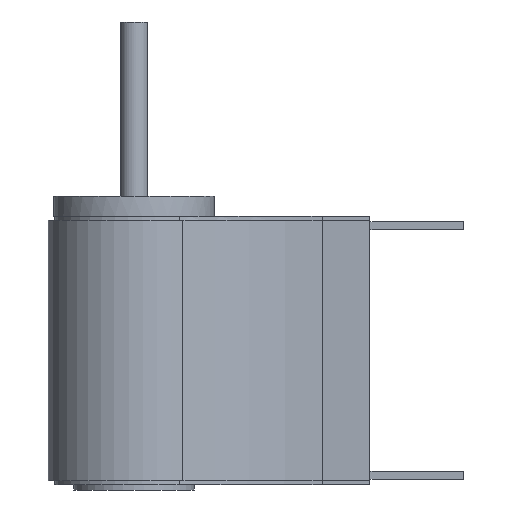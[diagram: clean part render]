
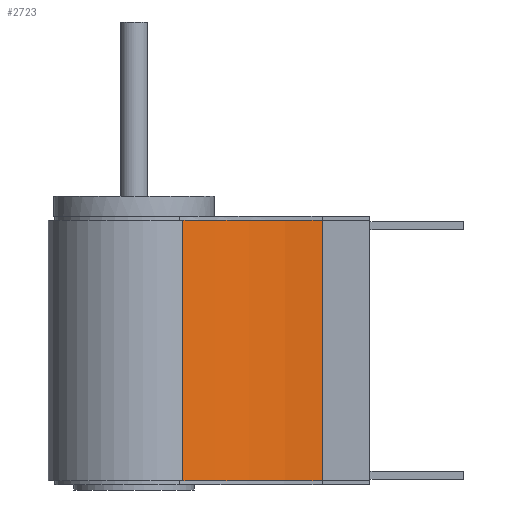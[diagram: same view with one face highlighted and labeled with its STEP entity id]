
A CAD part, front view. The second image highlights one B-rep face of the part: STEP entity #2723.
In plain terms, the highlighted cylindrical face has radius 182 mm (diameter 364 mm), a partial arc.
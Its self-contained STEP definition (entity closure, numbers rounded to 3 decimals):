
#96 = VERTEX_POINT ( 'NONE', #1039 ) ;
#117 = DIRECTION ( 'NONE',  ( -1., 0., 0. ) ) ;
#258 = VECTOR ( 'NONE', #889, 1000. ) ;
#304 = CYLINDRICAL_SURFACE ( 'NONE', #1901, 182. ) ;
#434 = DIRECTION ( 'NONE',  ( -1., 0., 0. ) ) ;
#757 = LINE ( 'NONE', #1429, #258 ) ;
#878 = CIRCLE ( 'NONE', #3517, 182. ) ;
#889 = DIRECTION ( 'NONE',  ( 0., 0., -1. ) ) ;
#917 = FACE_OUTER_BOUND ( 'NONE', #2429, .T. ) ;
#958 = VERTEX_POINT ( 'NONE', #2653 ) ;
#1013 = EDGE_CURVE ( 'NONE', #958, #2554, #2715, .T. ) ;
#1039 = CARTESIAN_POINT ( 'NONE',  ( 204.399, -42., 97. ) ) ;
#1166 = AXIS2_PLACEMENT_3D ( 'NONE', #2125, #3514, #434 ) ;
#1217 = DIRECTION ( 'NONE',  ( 0., 0., -1. ) ) ;
#1286 = ORIENTED_EDGE ( 'NONE', *, *, #2387, .F. ) ;
#1429 = CARTESIAN_POINT ( 'NONE',  ( 204.399, -42., 100. ) ) ;
#1656 = CARTESIAN_POINT ( 'NONE',  ( 204.399, -42., -97. ) ) ;
#1764 = VECTOR ( 'NONE', #1217, 1000. ) ;
#1827 = CARTESIAN_POINT ( 'NONE',  ( 204.399, -224., -97. ) ) ;
#1901 = AXIS2_PLACEMENT_3D ( 'NONE', #2900, #3142, #2586 ) ;
#2125 = CARTESIAN_POINT ( 'NONE',  ( 204.399, -224., 97. ) ) ;
#2204 = CIRCLE ( 'NONE', #1166, 182. ) ;
#2246 = VERTEX_POINT ( 'NONE', #1656 ) ;
#2290 = CARTESIAN_POINT ( 'NONE',  ( 100.527, -74.553, -97. ) ) ;
#2379 = CARTESIAN_POINT ( 'NONE',  ( 100.527, -74.553, 100. ) ) ;
#2387 = EDGE_CURVE ( 'NONE', #96, #2246, #757, .T. ) ;
#2429 = EDGE_LOOP ( 'NONE', ( #3229, #2851, #1286, #3545 ) ) ;
#2554 = VERTEX_POINT ( 'NONE', #2290 ) ;
#2586 = DIRECTION ( 'NONE',  ( -1., 0., 0. ) ) ;
#2653 = CARTESIAN_POINT ( 'NONE',  ( 100.527, -74.553, 97. ) ) ;
#2715 = LINE ( 'NONE', #2379, #1764 ) ;
#2723 = ADVANCED_FACE ( 'NONE', ( #917 ), #304, .F. ) ;
#2851 = ORIENTED_EDGE ( 'NONE', *, *, #2887, .T. ) ;
#2887 = EDGE_CURVE ( 'Edge9', #2554, #2246, #878, .T. ) ;
#2900 = CARTESIAN_POINT ( 'NONE',  ( 204.399, -224., 100. ) ) ;
#3142 = DIRECTION ( 'NONE',  ( 0., 0., -1. ) ) ;
#3223 = DIRECTION ( 'NONE',  ( 0., 0., -1. ) ) ;
#3229 = ORIENTED_EDGE ( 'NONE', *, *, #1013, .T. ) ;
#3404 = EDGE_CURVE ( 'Edge7', #958, #96, #2204, .T. ) ;
#3514 = DIRECTION ( 'NONE',  ( 0., 0., -1. ) ) ;
#3517 = AXIS2_PLACEMENT_3D ( 'NONE', #1827, #3223, #117 ) ;
#3545 = ORIENTED_EDGE ( 'NONE', *, *, #3404, .F. ) ;
